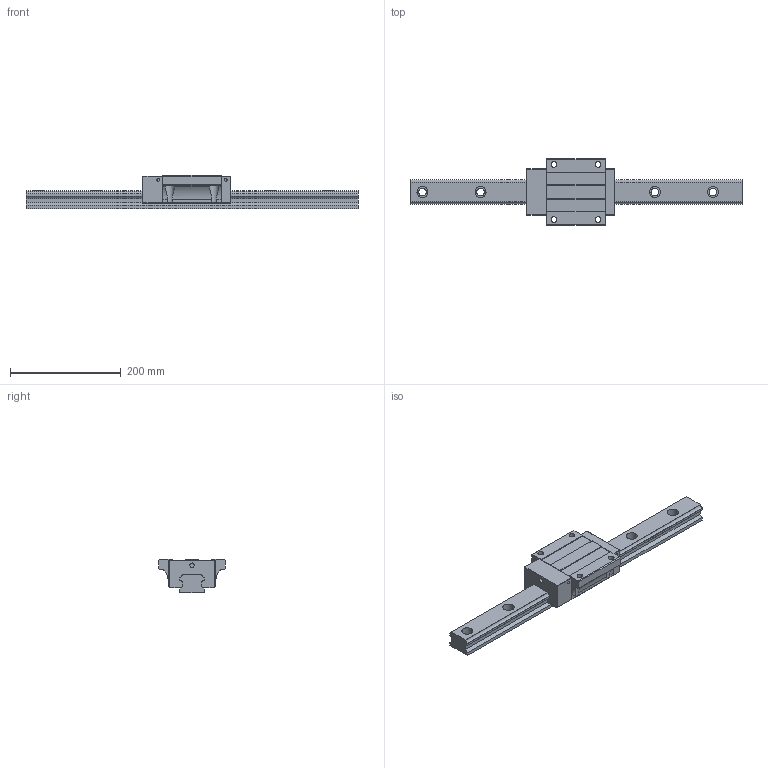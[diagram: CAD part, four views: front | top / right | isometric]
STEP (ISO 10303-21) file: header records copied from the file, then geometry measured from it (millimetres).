
FILE_DESCRIPTION (( 'STEP AP203' ), '1' );
FILE_NAME ('TRH45FL-BN.STEP', '2024-06-26T08:02:21', ( '' ), ( '' ), 'SwSTEP 2.0', 'SolidWorks 2022', '' );
FILE_SCHEMA (( 'CONFIG_CONTROL_DESIGN' ));
Length unit declared in the file: millimetre
Products named in the file (1): TRH45FL-BN
Bounding box: 600 x 120 x 60 mm (x, y, z)
Volume: 1297525 mm3; surface area: 176414.3 mm2
Topology: 2 solids, 2 shells, 214 faces, 582 edges, 380 vertices
Faces by surface type: cylinder 114, plane 96, sphere 4
Entity records: 7369 total; most frequent: CARTESIAN_POINT 1749, DIRECTION 1172, ORIENTED_EDGE 1156, EDGE_CURVE 578, AXIS2_PLACEMENT_3D 411, VERTEX_POINT 380, VECTOR 350, LINE 350
